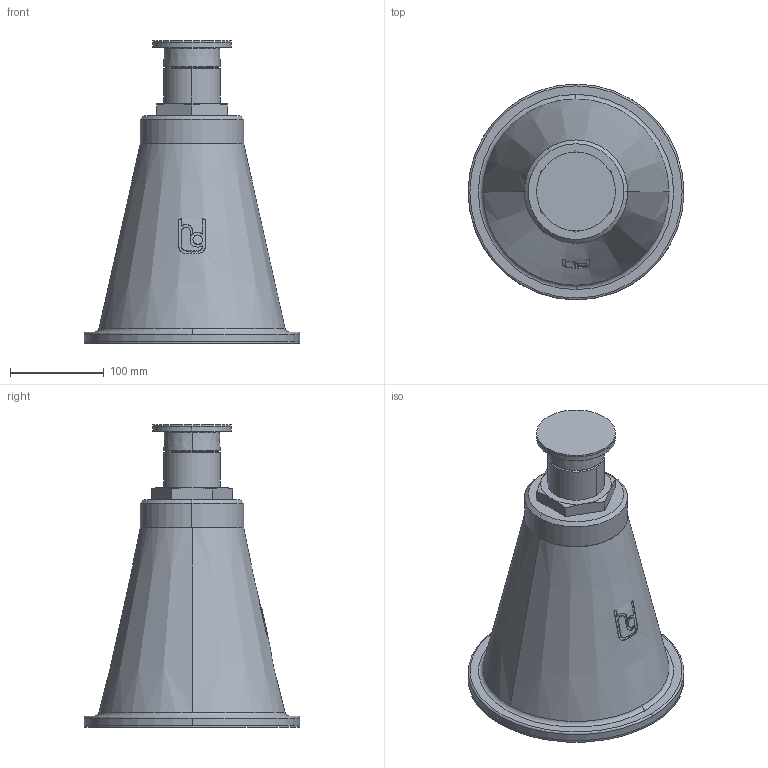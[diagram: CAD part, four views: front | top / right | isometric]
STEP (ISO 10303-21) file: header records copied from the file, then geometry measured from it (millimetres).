
FILE_DESCRIPTION(('STEP AP214'),'1');
FILE_NAME('RSRFA-09-V1.stp','2018-06-25T11:07:32',(' '),(' '),'Spatial InterOp 3D',' ',' ');
FILE_SCHEMA(('automotive_design'));
Length unit declared in the file: millimetre
Products named in the file (6): 1; 2; 3; 4; 5; 6
Bounding box: 230 x 230 x 322.5 mm (x, y, z)
Volume: 5512085.7 mm3; surface area: 366902.4 mm2
Topology: 6 solids, 7 shells, 112 faces, 262 edges, 168 vertices
Faces by surface type: plane 42, cylinder 37, cone 25, torus 8
Entity records: 4614 total; most frequent: CARTESIAN_POINT 1006, DIRECTION 568, ORIENTED_EDGE 524, EDGE_CURVE 262, AXIS2_PLACEMENT_3D 230, VERTEX_POINT 168, EDGE_LOOP 120, STYLED_ITEM 118
